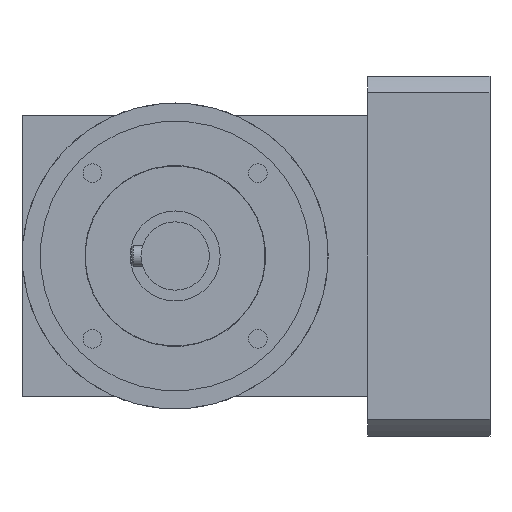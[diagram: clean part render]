
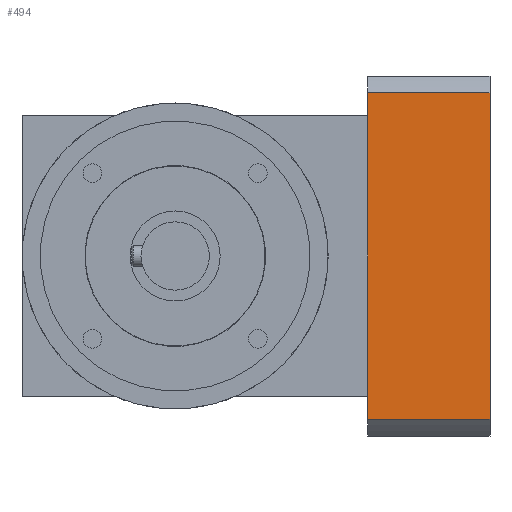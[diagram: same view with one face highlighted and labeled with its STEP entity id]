
A CAD part, left-side view. The second image highlights one B-rep face of the part: STEP entity #494.
In plain terms, the highlighted planar face has unit normal (-1, 0, 0).
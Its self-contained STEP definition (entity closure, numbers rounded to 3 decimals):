
#145=LINE('',#2509,#215);
#146=LINE('',#2524,#216);
#156=LINE('',#2549,#226);
#157=LINE('',#2550,#227);
#215=VECTOR('',#2009,1.);
#216=VECTOR('',#2024,1.);
#226=VECTOR('',#2050,1.);
#227=VECTOR('',#2051,1.);
#494=ADVANCED_FACE('',(#660),#606,.T.);
#606=PLANE('',#1744);
#660=FACE_OUTER_BOUND('',#771,.T.);
#771=EDGE_LOOP('',(#1010,#1011,#1012,#1013));
#1010=ORIENTED_EDGE('',*,*,#1470,.F.);
#1011=ORIENTED_EDGE('',*,*,#1449,.T.);
#1012=ORIENTED_EDGE('',*,*,#1471,.F.);
#1013=ORIENTED_EDGE('',*,*,#1456,.T.);
#1289=VERTEX_POINT('',#2496);
#1295=VERTEX_POINT('',#2508);
#1301=VERTEX_POINT('',#2522);
#1303=VERTEX_POINT('',#2525);
#1449=EDGE_CURVE('',#1289,#1295,#145,.T.);
#1456=EDGE_CURVE('',#1303,#1301,#146,.T.);
#1470=EDGE_CURVE('',#1289,#1301,#156,.T.);
#1471=EDGE_CURVE('',#1303,#1295,#157,.T.);
#1744=AXIS2_PLACEMENT_3D('',#2551,#2052,#2053);
#2009=DIRECTION('',(0.,0.,-1.));
#2024=DIRECTION('',(0.,0.,1.));
#2050=DIRECTION('',(0.,-1.,0.));
#2051=DIRECTION('',(0.,1.,0.));
#2052=DIRECTION('',(-1.,0.,0.));
#2053=DIRECTION('',(0.,1.,0.));
#2496=CARTESIAN_POINT('',(10.05,-53.45,45.346));
#2508=CARTESIAN_POINT('',(10.05,-53.45,-45.346));
#2509=CARTESIAN_POINT('',(10.05,-53.45,0.));
#2522=CARTESIAN_POINT('',(10.05,-87.45,45.346));
#2524=CARTESIAN_POINT('',(10.05,-87.45,0.));
#2525=CARTESIAN_POINT('',(10.05,-87.45,-45.346));
#2549=CARTESIAN_POINT('',(10.05,-103.45,45.346));
#2550=CARTESIAN_POINT('',(10.05,-103.45,-45.346));
#2551=CARTESIAN_POINT('',(10.05,-53.45,0.));
